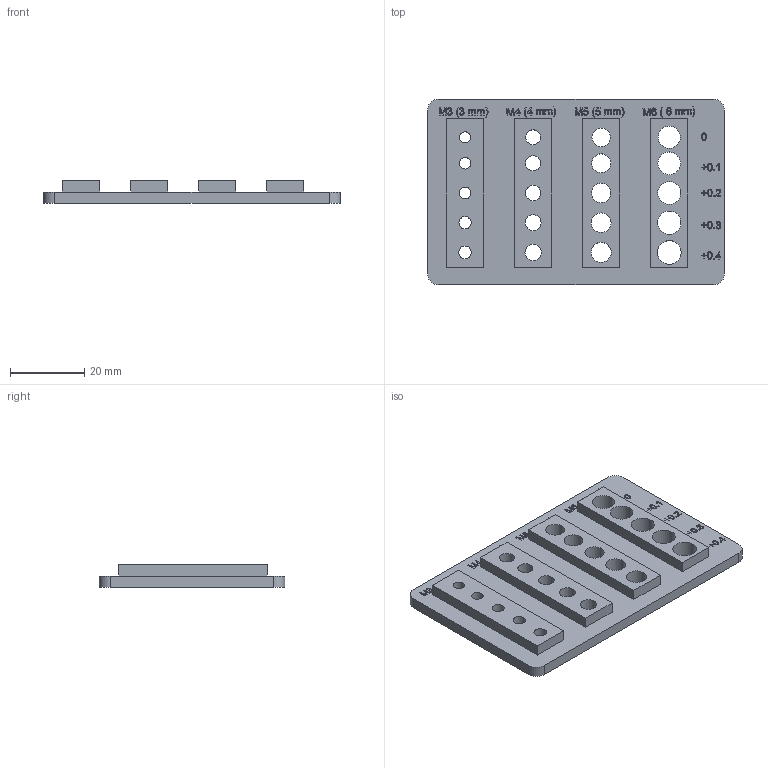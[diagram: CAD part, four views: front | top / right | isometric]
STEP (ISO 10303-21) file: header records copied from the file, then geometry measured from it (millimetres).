
FILE_DESCRIPTION(/* description */ (''),/* implementation_level */ '2;1');
FILE_NAME(/* name */ 'week12jigscrew v3.step',/* time_stamp */ '2025-06-22T18:53:49+05:30',/* author */ (''),/* organization */ (''),/* preprocessor_version */ 'ST-DEVELOPER v20.1',/* originating_system */ 'Autodesk Translation Framework v14.10.0.0',/* authorisation */ '');
FILE_SCHEMA (('AUTOMOTIVE_DESIGN { 1 0 10303 214 3 1 1 }'));
Length unit declared in the file: millimetre
Products named in the file (1): week12jigscrew
Bounding box: 80 x 50 x 6 mm (x, y, z)
Volume: 14532.2 mm3; surface area: 11376.8 mm2
Topology: 1 solids, 1 shells, 896 faces, 2505 edges, 1670 vertices
Faces by surface type: bspline 495, plane 377, cylinder 24
Full cylindrical faces by diameter (mm): 3 x1, 3.1 x1, 3.2 x1, 3.3 x1, 3.4 x1, 4 x1, 4.1 x1, 4.2 x1, 4.3 x1, 4.4 x1, 5 x1, 5.1 x1, 5.2 x1, 5.3 x1, 5.4 x1, 6 x1, 6.1 x1, 6.2 x1, 6.3 x1, 6.4 x1
Entity records: 33280 total; most frequent: CARTESIAN_POINT 13487, ORIENTED_EDGE 5010, EDGE_CURVE 2505, DIRECTION 2367, VERTEX_POINT 1670, LINE 1467, VECTOR 1467, EDGE_LOOP 995
